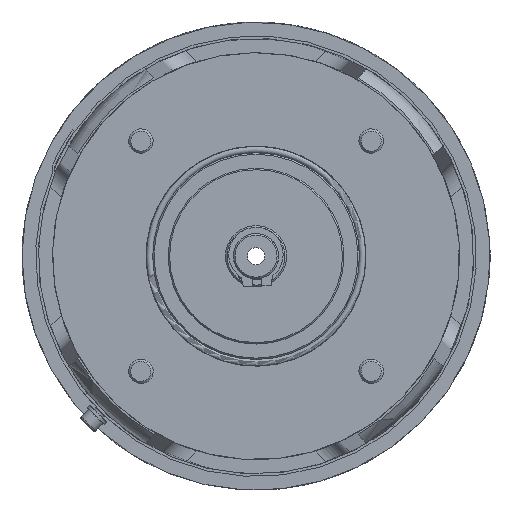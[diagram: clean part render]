
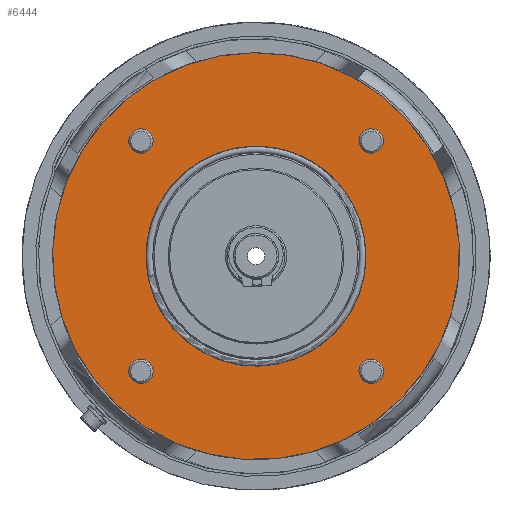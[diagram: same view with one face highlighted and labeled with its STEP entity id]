
A CAD part, front view. The second image highlights one B-rep face of the part: STEP entity #6444.
In plain terms, the highlighted planar face has unit normal (0, -1, 0).
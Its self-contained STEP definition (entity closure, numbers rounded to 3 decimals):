
#962=PLANE('',#6887);
#1606=FACE_BOUND('',#2188,.T.);
#1607=FACE_BOUND('',#2189,.T.);
#1608=FACE_BOUND('',#2190,.T.);
#1609=FACE_BOUND('',#2191,.T.);
#1610=FACE_BOUND('',#2192,.T.);
#1752=FACE_OUTER_BOUND('',#2187,.T.);
#2187=EDGE_LOOP('',(#4587));
#2188=EDGE_LOOP('',(#4588));
#2189=EDGE_LOOP('',(#4589));
#2190=EDGE_LOOP('',(#4590));
#2191=EDGE_LOOP('',(#4591));
#2192=EDGE_LOOP('',(#4592));
#2730=CIRCLE('',#6888,100.);
#2731=CIRCLE('',#6889,6.);
#2732=CIRCLE('',#6890,6.);
#2733=CIRCLE('',#6891,6.);
#2734=CIRCLE('',#6892,6.);
#2735=CIRCLE('',#6893,54.012);
#3080=VERTEX_POINT('',#9609);
#3081=VERTEX_POINT('',#9611);
#3082=VERTEX_POINT('',#9613);
#3083=VERTEX_POINT('',#9615);
#3084=VERTEX_POINT('',#9617);
#3085=VERTEX_POINT('',#9619);
#3684=EDGE_CURVE('',#3080,#3080,#2730,.T.);
#3685=EDGE_CURVE('',#3081,#3081,#2731,.T.);
#3686=EDGE_CURVE('',#3082,#3082,#2732,.T.);
#3687=EDGE_CURVE('',#3083,#3083,#2733,.T.);
#3688=EDGE_CURVE('',#3084,#3084,#2734,.T.);
#3689=EDGE_CURVE('',#3085,#3085,#2735,.T.);
#4587=ORIENTED_EDGE('',*,*,#3684,.T.);
#4588=ORIENTED_EDGE('',*,*,#3685,.F.);
#4589=ORIENTED_EDGE('',*,*,#3686,.F.);
#4590=ORIENTED_EDGE('',*,*,#3687,.F.);
#4591=ORIENTED_EDGE('',*,*,#3688,.F.);
#4592=ORIENTED_EDGE('',*,*,#3689,.F.);
#6444=ADVANCED_FACE('',(#1752,#1606,#1607,#1608,#1609,#1610),#962,.T.);
#6887=AXIS2_PLACEMENT_3D('',#9608,#7734,#7735);
#6888=AXIS2_PLACEMENT_3D('',#9610,#7736,#7737);
#6889=AXIS2_PLACEMENT_3D('',#9612,#7738,#7739);
#6890=AXIS2_PLACEMENT_3D('',#9614,#7740,#7741);
#6891=AXIS2_PLACEMENT_3D('',#9616,#7742,#7743);
#6892=AXIS2_PLACEMENT_3D('',#9618,#7744,#7745);
#6893=AXIS2_PLACEMENT_3D('',#9620,#7746,#7747);
#7734=DIRECTION('center_axis',(0.,-1.,0.));
#7735=DIRECTION('ref_axis',(0.707,0.,-0.707));
#7736=DIRECTION('center_axis',(0.,-1.,0.));
#7737=DIRECTION('ref_axis',(-0.707,0.,0.707));
#7738=DIRECTION('center_axis',(0.,-1.,0.));
#7739=DIRECTION('ref_axis',(-0.285,0.,0.958));
#7740=DIRECTION('center_axis',(0.,-1.,0.));
#7741=DIRECTION('ref_axis',(0.958,0.,0.285));
#7742=DIRECTION('center_axis',(0.,-1.,0.));
#7743=DIRECTION('ref_axis',(0.285,0.,-0.958));
#7744=DIRECTION('center_axis',(0.,-1.,0.));
#7745=DIRECTION('ref_axis',(-0.958,0.,-0.285));
#7746=DIRECTION('center_axis',(0.,-1.,0.));
#7747=DIRECTION('ref_axis',(0.,0.,-1.));
#9608=CARTESIAN_POINT('Origin',(0.,-1.587,
0.));
#9609=CARTESIAN_POINT('',(70.711,-1.587,-70.711));
#9610=CARTESIAN_POINT('Origin',(0.,-1.587,
0.));
#9611=CARTESIAN_POINT('',(-54.856,-1.588,50.818));
#9612=CARTESIAN_POINT('Origin',(-56.569,-1.588,56.569));
#9613=CARTESIAN_POINT('',(50.818,-1.588,54.856));
#9614=CARTESIAN_POINT('Origin',(56.569,-1.588,56.569));
#9615=CARTESIAN_POINT('',(54.856,-1.588,-50.818));
#9616=CARTESIAN_POINT('Origin',(56.569,-1.588,-56.569));
#9617=CARTESIAN_POINT('',(-50.818,-1.588,-54.856));
#9618=CARTESIAN_POINT('Origin',(-56.569,-1.588,-56.569));
#9619=CARTESIAN_POINT('',(0.,-1.587,54.012));
#9620=CARTESIAN_POINT('Origin',(0.,-1.587,
0.));
